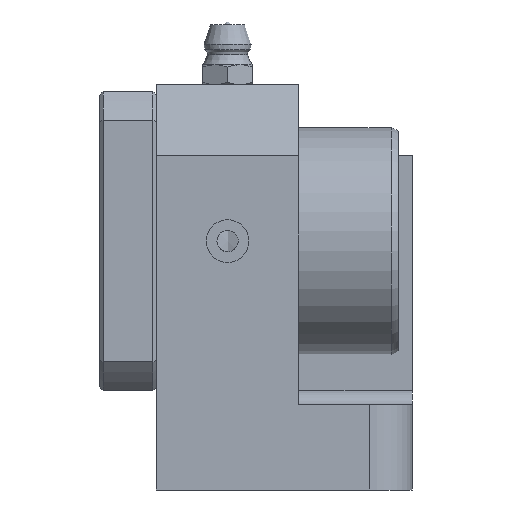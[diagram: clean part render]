
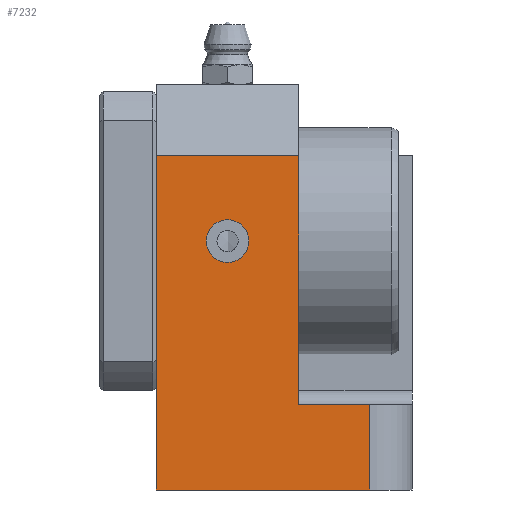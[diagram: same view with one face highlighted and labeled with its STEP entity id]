
A CAD part, front view. The second image highlights one B-rep face of the part: STEP entity #7232.
In plain terms, the highlighted planar face has unit normal (0, -1, 0).
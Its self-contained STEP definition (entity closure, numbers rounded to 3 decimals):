
#7099=CARTESIAN_POINT('',(30.,-63.,12.));
#7100=VERTEX_POINT('',#7099);
#7108=CARTESIAN_POINT('',(30.,-63.,0.0));
#7109=VERTEX_POINT('',#7108);
#7110=CARTESIAN_POINT('',(30.,-63.,12.));
#7111=DIRECTION('',(0.0,0.0,-1.0));
#7112=VECTOR('',#7111,12.);
#7113=LINE('',#7110,#7112);
#7114=EDGE_CURVE('',#7100,#7109,#7113,.T.);
#7135=CARTESIAN_POINT('',(0.0,-63.,0.0));
#7136=VERTEX_POINT('',#7135);
#7137=CARTESIAN_POINT('',(0.0,-63.,0.0));
#7138=DIRECTION('',(1.0,0.0,0.0));
#7139=VECTOR('',#7138,30.);
#7140=LINE('',#7137,#7139);
#7141=EDGE_CURVE('',#7136,#7109,#7140,.T.);
#7182=CARTESIAN_POINT('',(36.,-63.,0.0));
#7183=DIRECTION('',(0.0,-1.0,0.0));
#7184=DIRECTION('',(0.0,0.0,-1.0));
#7185=AXIS2_PLACEMENT_3D('',#7182,#7183,#7184);
#7186=PLANE('',#7185);
#7187=ORIENTED_EDGE('',*,*,#7114,.F.);
#7188=CARTESIAN_POINT('',(20.0,-63.,12.));
#7189=VERTEX_POINT('',#7188);
#7190=CARTESIAN_POINT('',(30.,-63.,12.));
#7191=DIRECTION('',(-1.0,0.0,0.0));
#7192=VECTOR('',#7191,10.);
#7193=LINE('',#7190,#7192);
#7194=EDGE_CURVE('',#7100,#7189,#7193,.T.);
#7195=ORIENTED_EDGE('',*,*,#7194,.T.);
#7196=CARTESIAN_POINT('',(20.0,-63.,47.0));
#7197=VERTEX_POINT('',#7196);
#7198=CARTESIAN_POINT('',(20.0,-63.,12.));
#7199=DIRECTION('',(0.0,0.0,1.0));
#7200=VECTOR('',#7199,35.);
#7201=LINE('',#7198,#7200);
#7202=EDGE_CURVE('',#7189,#7197,#7201,.T.);
#7203=ORIENTED_EDGE('',*,*,#7202,.T.);
#7204=CARTESIAN_POINT('',(0.0,-63.,47.0));
#7205=VERTEX_POINT('',#7204);
#7206=CARTESIAN_POINT('',(0.0,-63.,47.0));
#7207=DIRECTION('',(1.0,0.0,0.0));
#7208=VECTOR('',#7207,20.0);
#7209=LINE('',#7206,#7208);
#7210=EDGE_CURVE('',#7205,#7197,#7209,.T.);
#7211=ORIENTED_EDGE('',*,*,#7210,.F.);
#7212=CARTESIAN_POINT('',(0.0,-63.,0.0));
#7213=DIRECTION('',(0.0,0.0,1.0));
#7214=VECTOR('',#7213,47.0);
#7215=LINE('',#7212,#7214);
#7216=EDGE_CURVE('',#7136,#7205,#7215,.T.);
#7217=ORIENTED_EDGE('',*,*,#7216,.F.);
#7218=ORIENTED_EDGE('',*,*,#7141,.T.);
#7219=EDGE_LOOP('',(#7187,#7195,#7203,#7211,#7217,#7218));
#7220=FACE_OUTER_BOUND('',#7219,.T.);
#7221=CARTESIAN_POINT('',(13.0,-63.,35.0));
#7222=VERTEX_POINT('',#7221);
#7223=CARTESIAN_POINT('',(10.0,-63.,35.0));
#7224=DIRECTION('',(0.0,1.0,0.0));
#7225=DIRECTION('',(1.0,0.0,0.0));
#7226=AXIS2_PLACEMENT_3D('',#7223,#7224,#7225);
#7227=CIRCLE('',#7226,3.);
#7228=EDGE_CURVE('',#7222,#7222,#7227,.T.);
#7229=ORIENTED_EDGE('',*,*,#7228,.T.);
#7230=EDGE_LOOP('',(#7229));
#7231=FACE_BOUND('',#7230,.T.);
#7232=ADVANCED_FACE('',(#7220,#7231),#7186,.T.);
